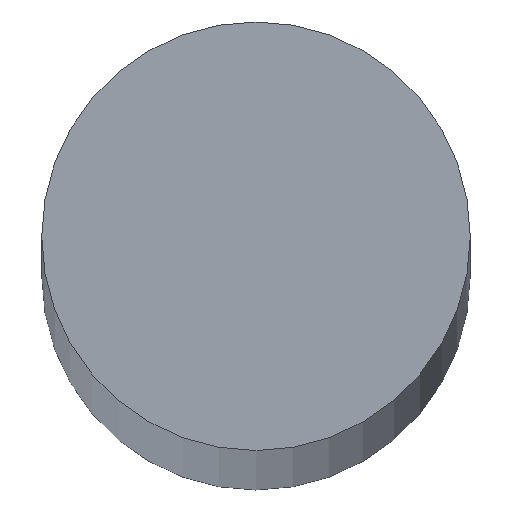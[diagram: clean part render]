
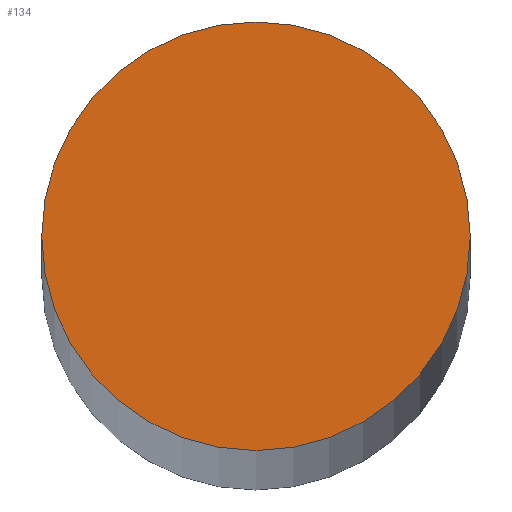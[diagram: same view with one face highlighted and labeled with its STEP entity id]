
A CAD part, top view. The second image highlights one B-rep face of the part: STEP entity #134.
In plain terms, the highlighted planar face has unit normal (0, 0, 1).
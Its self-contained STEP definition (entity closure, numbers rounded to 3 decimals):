
#2 = CARTESIAN_POINT ( 'NONE',  ( 0., 0., 316.5 ) ) ;
#3 = DIRECTION ( 'NONE',  ( 0., 0., 1. ) ) ;
#4 = DIRECTION ( 'NONE',  ( 1., 0., 0. ) ) ;
#5 = CARTESIAN_POINT ( 'NONE',  ( 0., 0., 316.5 ) ) ;
#6 = DIRECTION ( 'NONE',  ( 0., 0., 1. ) ) ;
#7 = DIRECTION ( 'NONE',  ( 1., 0., 0. ) ) ;
#33 = CARTESIAN_POINT ( 'NONE',  ( 0., 0., 316.5 ) ) ;
#34 = PLANE ( 'NONE',  #63 ) ;
#36 = DIRECTION ( 'NONE',  ( 0., 0., 1. ) ) ;
#37 = DIRECTION ( 'NONE',  ( 1., 0., 0. ) ) ;
#38 = CARTESIAN_POINT ( 'NONE',  ( 6., 0., 316.5 ) ) ;
#39 = CARTESIAN_POINT ( 'NONE',  ( -6., 0., 316.5 ) ) ;
#61 = EDGE_CURVE ( 'NONE', #139, #137, #110, .T. ) ;
#63 = AXIS2_PLACEMENT_3D ( 'NONE', #33, #36, #37 ) ;
#64 = EDGE_CURVE ( 'NONE', #137, #139, #111, .T. ) ;
#77 = AXIS2_PLACEMENT_3D ( 'NONE', #5, #6, #7 ) ;
#80 = AXIS2_PLACEMENT_3D ( 'NONE', #2, #3, #4 ) ;
#89 = ORIENTED_EDGE ( 'NONE', *, *, #61, .T. ) ;
#95 = ORIENTED_EDGE ( 'NONE', *, *, #64, .T. ) ;
#105 = EDGE_LOOP ( 'NONE', ( #95, #89 ) ) ;
#110 = CIRCLE ( 'NONE', #80, 6. ) ;
#111 = CIRCLE ( 'NONE', #77, 6. ) ;
#123 = FACE_OUTER_BOUND ( 'NONE', #105, .T. ) ;
#134 = ADVANCED_FACE ( 'NONE', ( #123 ), #34, .T. ) ;
#137 = VERTEX_POINT ( 'NONE', #39 ) ;
#139 = VERTEX_POINT ( 'NONE', #38 ) ;
